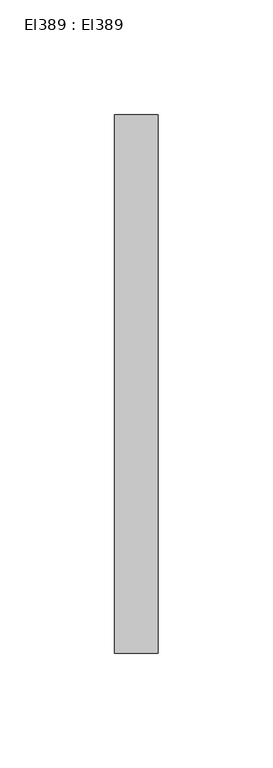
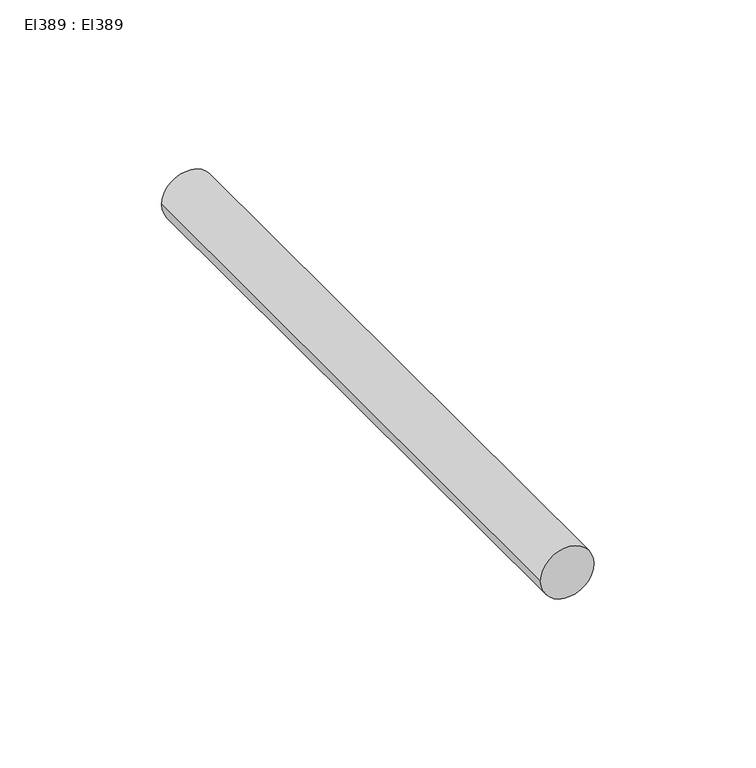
"""IFC4 building model written with IfcOpenShell, lengths in millimetres: cable carrier segment geometry, El389 : El389."""

from ifc_helpers import new_model, si_unit, point, frame, frame_2d, origin, place, context, project, spatial, circle_curve, trimmed, segment, composite_curve, outline, extrude, source, transform, mapped, element, save


def el389_el389_6e6348f1(model_context):
    return source(origin(), model_context, "Body", "SweptSolid", [
        extrude(outline(composite_curve([segment(trimmed(circle_curve(frame_2d((1200.0, 1300.0)), 9.5), [point((1200.0, 1290.5))], [point((1200.0, 1309.5))], False, "CARTESIAN"), True, "CONTINUOUS"), segment(trimmed(circle_curve(frame_2d((1200.0, 1300.0)), 9.5), [point((1200.0, 1309.5))], [point((1200.0, 1290.5))], False, "CARTESIAN"), True, "CONTINUOUS")], self_intersect=False)), frame((0.0, 28236.723, 0.0), z_axis=(0.0, 1.0, 0.0), x_axis=(0.0, 0.0, 1.0)), (0.0, 0.0, 1.0), 234.355),
    ])


if __name__ == "__main__":
    model = new_model("IFC4")
    model_context = context("Model", 3, world=origin())
    ifc_project = project(units=[si_unit("LENGTHUNIT", "METRE", prefix="MILLI")], contexts=[model_context])
    site = spatial("IfcSite", under=ifc_project)
    building = spatial("IfcBuilding", under=site)
    placement = place(None, origin())
    el389_el389_shape = el389_el389_6e6348f1(model_context)
    element("IfcCableCarrierSegment", 1, ObjectType="El389 : El389", at=placement, inside=building, context=model_context, shape_type="MappedRepresentation", body=[
        mapped(el389_el389_shape, transform((0.0, 0.0, 0.0), x_axis=(1.0, 0.0, 0.0), y_axis=(0.0, 1.0, 0.0), z_axis=(0.0, 0.0, 1.0))),
    ])
    save(model, "model.ifc")
